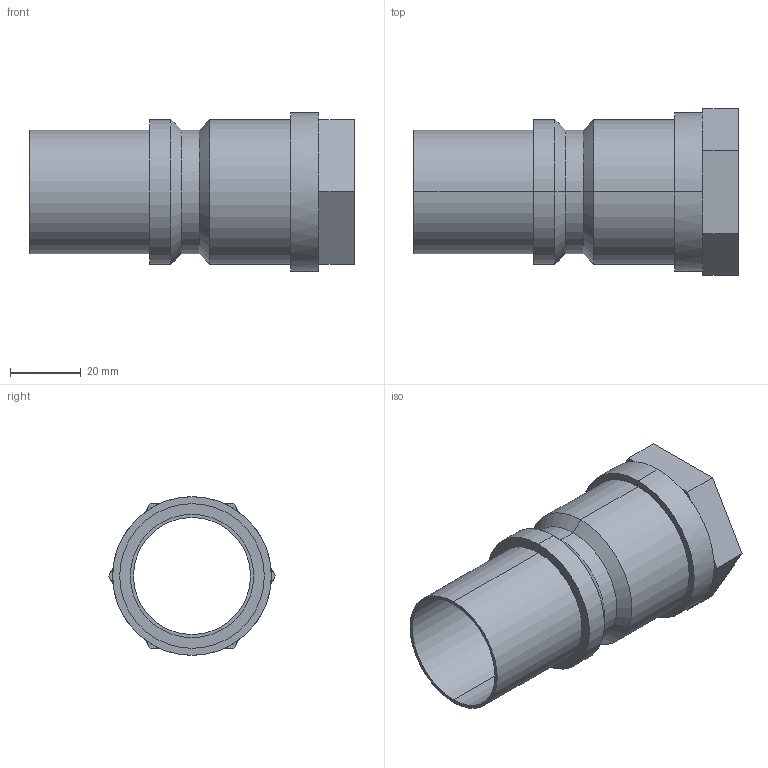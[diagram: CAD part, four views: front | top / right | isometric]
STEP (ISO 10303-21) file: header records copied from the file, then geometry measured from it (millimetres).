
FILE_DESCRIPTION (( 'STEP AP214' ), '1' );
FILE_NAME ('BR601.25 DR 33.STEP', '2020-12-02T13:27:06', ( '' ), ( '' ), 'SwSTEP 2.0', 'SolidWorks 2018', '' );
FILE_SCHEMA (( 'AUTOMOTIVE_DESIGN' ));
Length unit declared in the file: millimetre
Products named in the file (1): BR601.25 DR 33
Bounding box: 92 x 47.34 x 45 mm (x, y, z)
Volume: 30265.8 mm3; surface area: 22663.2 mm2
Topology: 1 solids, 1 shells, 38 faces, 82 edges, 48 vertices
Faces by surface type: plane 22, cylinder 12, cone 4
Entity records: 1060 total; most frequent: DIRECTION 196, CARTESIAN_POINT 169, ORIENTED_EDGE 164, EDGE_CURVE 82, AXIS2_PLACEMENT_3D 75, VERTEX_POINT 48, VECTOR 46, LINE 46
